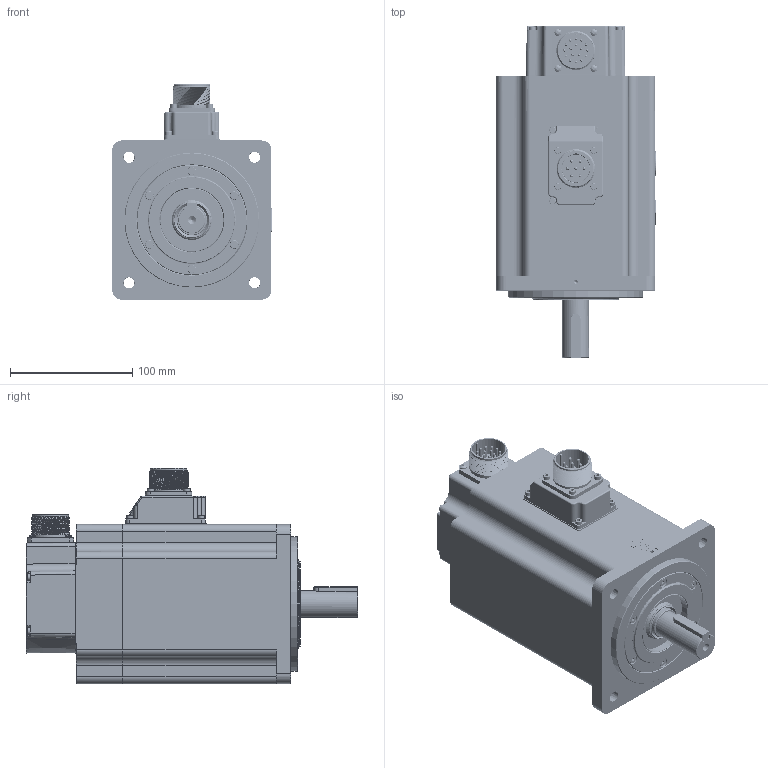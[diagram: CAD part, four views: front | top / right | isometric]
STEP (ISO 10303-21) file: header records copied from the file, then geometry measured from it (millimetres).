
FILE_DESCRIPTION( ( 'Unknown' ), '1' );
FILE_NAME( 'X:/05_Progetto TCE/010-TCE motor drawings/TCE130/Vuoti/TCE130 5H XX 3 A2 1 C3.stp', 'Unknown', ( 'Unknown' ), ( 'Unknown' ), 'PSStep 17.0.49', 'Unknown', ' ' );
FILE_SCHEMA( ( 'AUTOMOTIVE_DESIGN { 1 0 10303 214 1 1 1 1 }' ) );
Length unit declared in the file: millimetre
Products named in the file (52): back cover TCE100 + CN MIL; 003303000373; 003108015154; 005911000525; 005911000525-oa3; 005911000525-oa4; 005911000525-oa5; 001107000620; U5160003_vuoto; 005117001750; cap-M3 nudo; 003120002515; 003799000580; 003303000370; 005911000150; 005911000201; Assem1; 003103001510; 005008000302-oa0; 005008000842-oa1; 005008000690-oa2; 003155000301; 003251022006; 005751000410; 005911000430; 005911003646; 005123001528; 005123000600; 005113002005; 005009000203; 005204000001; 005204000002; 005119000340; 005204000003; 005911000493; 003003050030
Assembly tree (77 placements, depth 3):
  Assem1
    003103001510
    005008000302-oa0
    005008000842-oa1
    005008000690-oa2
    003155000301
    003251022006
    005751000410
    005911000430  x10
    005911003646  x8
    005123001528
    005123001528
    005123001528
    005123001528
    005123001528
    005123001528
    005123001528
    005123000600
    005123000600
    005123000600
    005123000600
    005123000600
    005123000600
    005123000600
    005113002005
    005009000203
    005204000001
    005204000002
    005119000340
    005119000340
    005204000003
    005911000493  x4
    003003050030
    back cover TCE100 + CN MIL
      003303000373
      003108015154
      005911000525
      005911000525-oa3
      005911000525-oa4
      005911000525-oa5
      001107000620
    U5160003_vuoto
      005117001750
      005117001750
      cap-M3 nudo
      003120002515
      003120002515
      003799000580
      003303000370
      003303000373
      005911000150
      005911000201  x8
Bounding box: 130.3 x 271 x 175.8 mm (x, y, z)
Volume: 1196220 mm3; surface area: 421634.1 mm2
Topology: 75 solids, 85 shells, 3047 faces, 7544 edges, 4858 vertices
Faces by surface type: plane 1541, cylinder 732, extrusion 233, cone 178, torus 148, bspline 143, sphere 72
Full cylindrical faces by diameter (mm): 2 x34, 2.224 x1, 2.4 x8, 2.459 x24, 2.5 x3, 2.6 x1, 2.8 x7, 2.9 x4, 3 x30, 3.048 x4, 3.2 x5, 3.242 x30, 3.5 x11, 3.6 x1, 3.7 x8, 3.8 x2, 4 x23, 4.134 x16, 4.5 x6, 4.7 x11, 5 x8, 5.1 x1, 5.5 x34, 5.6 x4, 5.8 x6, 6.647 x2, 7 x10, 8 x15, 8.5 x8, 10 x1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
Entity records: 121830 total; most frequent: CARTESIAN_POINT 41298, ORIENTED_EDGE 11662, DIRECTION 11538, EDGE_CURVE 5831, VERTEX_POINT 4130, AXIS2_PLACEMENT_3D 4046, EDGE_LOOP 3601, VECTOR 3446
